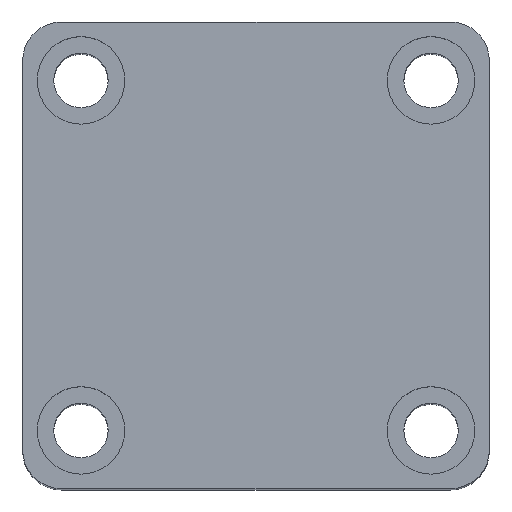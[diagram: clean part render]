
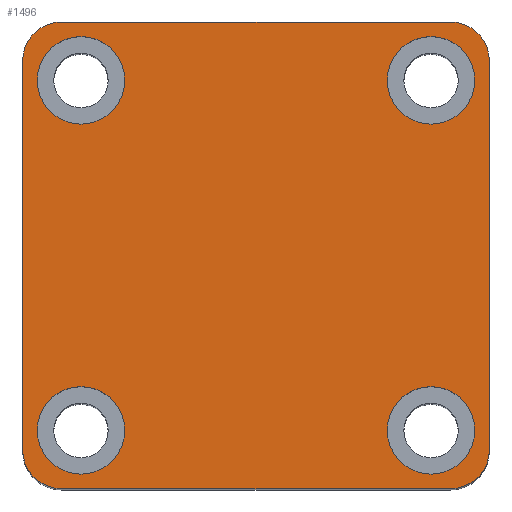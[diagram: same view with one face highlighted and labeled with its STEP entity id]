
A CAD part, top view. The second image highlights one B-rep face of the part: STEP entity #1496.
In plain terms, the highlighted planar face has unit normal (0, 0, 1).
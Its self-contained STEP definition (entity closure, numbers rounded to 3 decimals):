
#140 = ORIENTED_EDGE ( 'NONE', *, *, #2386, .T. ) ;
#155 = ORIENTED_EDGE ( 'NONE', *, *, #2185, .F. ) ;
#156 = ORIENTED_EDGE ( 'NONE', *, *, #2357, .F. ) ;
#157 = ORIENTED_EDGE ( 'NONE', *, *, #2229, .T. ) ;
#159 = ORIENTED_EDGE ( 'NONE', *, *, #2354, .F. ) ;
#162 = ORIENTED_EDGE ( 'NONE', *, *, #2385, .T. ) ;
#165 = ORIENTED_EDGE ( 'NONE', *, *, #2165, .T. ) ;
#171 = ORIENTED_EDGE ( 'NONE', *, *, #2382, .F. ) ;
#172 = ORIENTED_EDGE ( 'NONE', *, *, #2384, .T. ) ;
#173 = ORIENTED_EDGE ( 'NONE', *, *, #2381, .F. ) ;
#174 = ORIENTED_EDGE ( 'NONE', *, *, #2360, .F. ) ;
#176 = ORIENTED_EDGE ( 'NONE', *, *, #2191, .T. ) ;
#178 = ORIENTED_EDGE ( 'NONE', *, *, #2380, .F. ) ;
#181 = ORIENTED_EDGE ( 'NONE', *, *, #2218, .T. ) ;
#227 = ORIENTED_EDGE ( 'NONE', *, *, #2383, .T. ) ;
#246 = ORIENTED_EDGE ( 'NONE', *, *, #2199, .F. ) ;
#286 = LINE ( 'NONE', #914, #1493 ) ;
#290 = VECTOR ( 'NONE', #1159, 1000. ) ;
#293 = LINE ( 'NONE', #1577, #290 ) ;
#301 = CIRCLE ( 'NONE', #2148, 4.5 ) ;
#302 = VECTOR ( 'NONE', #1622, 1000. ) ;
#305 = LINE ( 'NONE', #1608, #302 ) ;
#308 = CIRCLE ( 'NONE', #2151, 4.5 ) ;
#311 = VECTOR ( 'NONE', #1643, 1000. ) ;
#314 = LINE ( 'NONE', #1637, #311 ) ;
#481 = FACE_BOUND ( 'NONE', #555, .T. ) ;
#484 = FACE_BOUND ( 'NONE', #518, .T. ) ;
#487 = FACE_BOUND ( 'NONE', #593, .T. ) ;
#489 = FACE_OUTER_BOUND ( 'NONE', #516, .T. ) ;
#490 = FACE_BOUND ( 'NONE', #498, .T. ) ;
#498 = EDGE_LOOP ( 'NONE', ( #173, #246 ) ) ;
#516 = EDGE_LOOP ( 'NONE', ( #176, #227, #181, #172, #157, #162, #165, #140 ) ) ;
#518 = EDGE_LOOP ( 'NONE', ( #159, #156 ) ) ;
#555 = EDGE_LOOP ( 'NONE', ( #171, #155 ) ) ;
#593 = EDGE_LOOP ( 'NONE', ( #178, #174 ) ) ;
#620 = VERTEX_POINT ( 'NONE', #1898 ) ;
#624 = VERTEX_POINT ( 'NONE', #1884 ) ;
#627 = VERTEX_POINT ( 'NONE', #1870 ) ;
#628 = VERTEX_POINT ( 'NONE', #1865 ) ;
#631 = VERTEX_POINT ( 'NONE', #1852 ) ;
#653 = VERTEX_POINT ( 'NONE', #1761 ) ;
#658 = VERTEX_POINT ( 'NONE', #1739 ) ;
#702 = VERTEX_POINT ( 'NONE', #1658 ) ;
#703 = VERTEX_POINT ( 'NONE', #1632 ) ;
#707 = VERTEX_POINT ( 'NONE', #1631 ) ;
#708 = VERTEX_POINT ( 'NONE', #1626 ) ;
#709 = VERTEX_POINT ( 'NONE', #1619 ) ;
#713 = VERTEX_POINT ( 'NONE', #1628 ) ;
#714 = VERTEX_POINT ( 'NONE', #1620 ) ;
#715 = VERTEX_POINT ( 'NONE', #1614 ) ;
#716 = VERTEX_POINT ( 'NONE', #1615 ) ;
#914 = CARTESIAN_POINT ( 'NONE',  ( -24., -24., 75. ) ) ;
#922 = CARTESIAN_POINT ( 'NONE',  ( 18., 18., 75. ) ) ;
#923 = DIRECTION ( 'NONE',  ( 0., 0., 1. ) ) ;
#924 = DIRECTION ( 'NONE',  ( 1., 0., 0. ) ) ;
#940 = DIRECTION ( 'NONE',  ( 1., 0., 0. ) ) ;
#969 = DIRECTION ( 'NONE',  ( 0., 0., 1. ) ) ;
#976 = CARTESIAN_POINT ( 'NONE',  ( -18., 18., 75. ) ) ;
#977 = DIRECTION ( 'NONE',  ( 1., 0., 0. ) ) ;
#1110 = DIRECTION ( 'NONE',  ( 0., 0., 1. ) ) ;
#1112 = DIRECTION ( 'NONE',  ( 1., 0., 0. ) ) ;
#1114 = CARTESIAN_POINT ( 'NONE',  ( -18., 18., 75. ) ) ;
#1159 = DIRECTION ( 'NONE',  ( 0., -1., 0. ) ) ;
#1324 = CIRCLE ( 'NONE', #2072, 4. ) ;
#1325 = CIRCLE ( 'NONE', #2073, 4. ) ;
#1326 = CIRCLE ( 'NONE', #2074, 4. ) ;
#1327 = CIRCLE ( 'NONE', #2075, 4. ) ;
#1328 = CIRCLE ( 'NONE', #2076, 4.5 ) ;
#1329 = CIRCLE ( 'NONE', #2077, 4.5 ) ;
#1331 = CIRCLE ( 'NONE', #2078, 4.5 ) ;
#1362 = CIRCLE ( 'NONE', #2089, 4.5 ) ;
#1366 = CIRCLE ( 'NONE', #2091, 4.5 ) ;
#1369 = CIRCLE ( 'NONE', #2092, 4.5 ) ;
#1493 = VECTOR ( 'NONE', #940, 1000. ) ;
#1496 = ADVANCED_FACE ( 'NONE', ( #484, #487, #490, #481, #489 ), #2026, .T. ) ;
#1577 = CARTESIAN_POINT ( 'NONE',  ( -24., 24., 75. ) ) ;
#1578 = DIRECTION ( 'NONE',  ( 0., 0., 1. ) ) ;
#1590 = DIRECTION ( 'NONE',  ( 1., 0., 0. ) ) ;
#1591 = DIRECTION ( 'NONE',  ( 0., 0., 1. ) ) ;
#1592 = CARTESIAN_POINT ( 'NONE',  ( -18., -18., 75. ) ) ;
#1608 = CARTESIAN_POINT ( 'NONE',  ( -24., 24., 75. ) ) ;
#1611 = DIRECTION ( 'NONE',  ( 1., 0., 0. ) ) ;
#1612 = DIRECTION ( 'NONE',  ( 0., 0., 1. ) ) ;
#1613 = CARTESIAN_POINT ( 'NONE',  ( 18., -18., 75. ) ) ;
#1614 = CARTESIAN_POINT ( 'NONE',  ( -24., -20., 75. ) ) ;
#1615 = CARTESIAN_POINT ( 'NONE',  ( 22.5, -18., 75. ) ) ;
#1619 = CARTESIAN_POINT ( 'NONE',  ( -20., -24., 75. ) ) ;
#1620 = CARTESIAN_POINT ( 'NONE',  ( -20., 24., 75. ) ) ;
#1622 = DIRECTION ( 'NONE',  ( -1., 0., 0. ) ) ;
#1626 = CARTESIAN_POINT ( 'NONE',  ( 24., 20., 75. ) ) ;
#1628 = CARTESIAN_POINT ( 'NONE',  ( 20., 24., 75. ) ) ;
#1631 = CARTESIAN_POINT ( 'NONE',  ( 20., -24., 75. ) ) ;
#1632 = CARTESIAN_POINT ( 'NONE',  ( -24., 20., 75. ) ) ;
#1637 = CARTESIAN_POINT ( 'NONE',  ( 24., 24., 75. ) ) ;
#1643 = DIRECTION ( 'NONE',  ( 0., 1., 0. ) ) ;
#1658 = CARTESIAN_POINT ( 'NONE',  ( 24., -20., 75. ) ) ;
#1739 = CARTESIAN_POINT ( 'NONE',  ( -13.5, 18., 75. ) ) ;
#1761 = CARTESIAN_POINT ( 'NONE',  ( -22.5, 18., 75. ) ) ;
#1852 = CARTESIAN_POINT ( 'NONE',  ( -22.5, -18., 75. ) ) ;
#1865 = CARTESIAN_POINT ( 'NONE',  ( 13.5, 18., 75. ) ) ;
#1870 = CARTESIAN_POINT ( 'NONE',  ( 13.5, -18., 75. ) ) ;
#1884 = CARTESIAN_POINT ( 'NONE',  ( 22.5, 18., 75. ) ) ;
#1898 = CARTESIAN_POINT ( 'NONE',  ( -13.5, -18., 75. ) ) ;
#2022 = DIRECTION ( 'NONE',  ( 1., 0., 0. ) ) ;
#2024 = CARTESIAN_POINT ( 'NONE',  ( 0., 0., 75. ) ) ;
#2026 = PLANE ( 'NONE',  #2260 ) ;
#2072 = AXIS2_PLACEMENT_3D ( 'NONE', #2414, #2438, #2632 ) ;
#2073 = AXIS2_PLACEMENT_3D ( 'NONE', #2418, #2417, #2416 ) ;
#2074 = AXIS2_PLACEMENT_3D ( 'NONE', #2421, #2420, #2419 ) ;
#2075 = AXIS2_PLACEMENT_3D ( 'NONE', #2424, #2423, #2422 ) ;
#2076 = AXIS2_PLACEMENT_3D ( 'NONE', #2427, #2426, #2425 ) ;
#2077 = AXIS2_PLACEMENT_3D ( 'NONE', #2430, #2429, #2428 ) ;
#2078 = AXIS2_PLACEMENT_3D ( 'NONE', #2433, #2432, #2431 ) ;
#2089 = AXIS2_PLACEMENT_3D ( 'NONE', #922, #923, #924 ) ;
#2091 = AXIS2_PLACEMENT_3D ( 'NONE', #1114, #1110, #1112 ) ;
#2092 = AXIS2_PLACEMENT_3D ( 'NONE', #976, #969, #977 ) ;
#2148 = AXIS2_PLACEMENT_3D ( 'NONE', #1592, #1591, #1590 ) ;
#2151 = AXIS2_PLACEMENT_3D ( 'NONE', #1613, #1612, #1611 ) ;
#2165 = EDGE_CURVE ( 'NONE', #702, #708, #314, .T. ) ;
#2185 = EDGE_CURVE ( 'NONE', #627, #716, #308, .T. ) ;
#2191 = EDGE_CURVE ( 'NONE', #713, #714, #305, .T. ) ;
#2199 = EDGE_CURVE ( 'NONE', #631, #620, #301, .T. ) ;
#2218 = EDGE_CURVE ( 'NONE', #703, #715, #293, .T. ) ;
#2229 = EDGE_CURVE ( 'NONE', #709, #707, #286, .T. ) ;
#2260 = AXIS2_PLACEMENT_3D ( 'NONE', #2024, #1578, #2022 ) ;
#2354 = EDGE_CURVE ( 'NONE', #658, #653, #1369, .T. ) ;
#2357 = EDGE_CURVE ( 'NONE', #653, #658, #1366, .T. ) ;
#2360 = EDGE_CURVE ( 'NONE', #628, #624, #1362, .T. ) ;
#2380 = EDGE_CURVE ( 'NONE', #624, #628, #1331, .T. ) ;
#2381 = EDGE_CURVE ( 'NONE', #620, #631, #1329, .T. ) ;
#2382 = EDGE_CURVE ( 'NONE', #716, #627, #1328, .T. ) ;
#2383 = EDGE_CURVE ( 'NONE', #714, #703, #1327, .T. ) ;
#2384 = EDGE_CURVE ( 'NONE', #715, #709, #1326, .T. ) ;
#2385 = EDGE_CURVE ( 'NONE', #707, #702, #1325, .T. ) ;
#2386 = EDGE_CURVE ( 'NONE', #708, #713, #1324, .T. ) ;
#2414 = CARTESIAN_POINT ( 'NONE',  ( 20., 20., 75. ) ) ;
#2416 = DIRECTION ( 'NONE',  ( 1., 0., 0. ) ) ;
#2417 = DIRECTION ( 'NONE',  ( 0., 0., 1. ) ) ;
#2418 = CARTESIAN_POINT ( 'NONE',  ( 20., -20., 75. ) ) ;
#2419 = DIRECTION ( 'NONE',  ( 1., 0., 0. ) ) ;
#2420 = DIRECTION ( 'NONE',  ( 0., 0., 1. ) ) ;
#2421 = CARTESIAN_POINT ( 'NONE',  ( -20., -20., 75. ) ) ;
#2422 = DIRECTION ( 'NONE',  ( 1., 0., 0. ) ) ;
#2423 = DIRECTION ( 'NONE',  ( 0., 0., 1. ) ) ;
#2424 = CARTESIAN_POINT ( 'NONE',  ( -20., 20., 75. ) ) ;
#2425 = DIRECTION ( 'NONE',  ( 1., 0., 0. ) ) ;
#2426 = DIRECTION ( 'NONE',  ( 0., 0., 1. ) ) ;
#2427 = CARTESIAN_POINT ( 'NONE',  ( 18., -18., 75. ) ) ;
#2428 = DIRECTION ( 'NONE',  ( 1., 0., 0. ) ) ;
#2429 = DIRECTION ( 'NONE',  ( 0., 0., 1. ) ) ;
#2430 = CARTESIAN_POINT ( 'NONE',  ( -18., -18., 75. ) ) ;
#2431 = DIRECTION ( 'NONE',  ( 1., 0., 0. ) ) ;
#2432 = DIRECTION ( 'NONE',  ( 0., 0., 1. ) ) ;
#2433 = CARTESIAN_POINT ( 'NONE',  ( 18., 18., 75. ) ) ;
#2438 = DIRECTION ( 'NONE',  ( 0., 0., 1. ) ) ;
#2632 = DIRECTION ( 'NONE',  ( 1., 0., 0. ) ) ;
